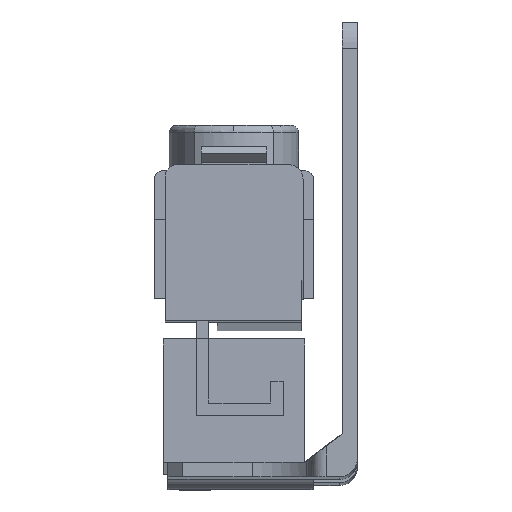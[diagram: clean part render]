
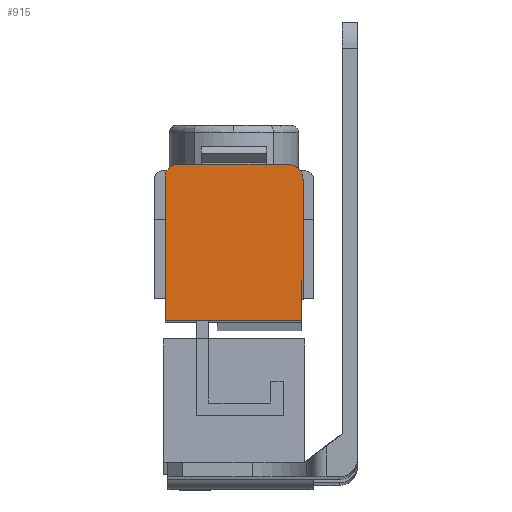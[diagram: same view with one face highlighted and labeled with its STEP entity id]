
A CAD part, front view. The second image highlights one B-rep face of the part: STEP entity #915.
In plain terms, the highlighted planar face has unit normal (0, -1, 0.005).
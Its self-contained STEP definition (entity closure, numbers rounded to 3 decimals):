
#120 = ORIENTED_EDGE ( 'NONE', *, *, #3014, .T. ) ;
#187 = ORIENTED_EDGE ( 'NONE', *, *, #3003, .T. ) ;
#197 = ORIENTED_EDGE ( 'NONE', *, *, #3006, .T. ) ;
#208 = ORIENTED_EDGE ( 'NONE', *, *, #3015, .T. ) ;
#222 = ORIENTED_EDGE ( 'NONE', *, *, #3011, .T. ) ;
#287 = ORIENTED_EDGE ( 'NONE', *, *, #3002, .T. ) ;
#309 = ORIENTED_EDGE ( 'NONE', *, *, #3010, .T. ) ;
#310 = ORIENTED_EDGE ( 'NONE', *, *, #2994, .T. ) ;
#915 = ADVANCED_FACE ( 'NONE', ( #2052 ), #1414, .T. ) ;
#1159 = AXIS2_PLACEMENT_3D ( 'NONE', #1415, #1416, #1417 ) ;
#1388 = AXIS2_PLACEMENT_3D ( 'NONE', #5321, #5322, #5323 ) ;
#1389 = AXIS2_PLACEMENT_3D ( 'NONE', #5346, #5347, #5348 ) ;
#1414 = PLANE ( 'NONE',  #1159 ) ;
#1415 = CARTESIAN_POINT ( 'NONE',  ( -24.75, -22.783, -6.422 ) ) ;
#1416 = DIRECTION ( 'NONE',  ( 0., -1., 0.005 ) ) ;
#1417 = DIRECTION ( 'NONE',  ( 0., -0.005, -1. ) ) ;
#2052 = FACE_OUTER_BOUND ( 'NONE', #4964, .T. ) ;
#2994 = EDGE_CURVE ( 'NONE', #3358, #3281, #4300, .T. ) ;
#3002 = EDGE_CURVE ( 'NONE', #3253, #3358, #4314, .T. ) ;
#3003 = EDGE_CURVE ( 'NONE', #3281, #3334, #4316, .T. ) ;
#3006 = EDGE_CURVE ( 'NONE', #3334, #3254, #4323, .T. ) ;
#3010 = EDGE_CURVE ( 'NONE', #3254, #3306, #4329, .T. ) ;
#3011 = EDGE_CURVE ( 'NONE', #3326, #3253, #4331, .T. ) ;
#3014 = EDGE_CURVE ( 'NONE', #3306, #3340, #4337, .T. ) ;
#3015 = EDGE_CURVE ( 'NONE', #3340, #3326, #4339, .T. ) ;
#3253 = VERTEX_POINT ( 'NONE', #5729 ) ;
#3254 = VERTEX_POINT ( 'NONE', #5730 ) ;
#3281 = VERTEX_POINT ( 'NONE', #5757 ) ;
#3306 = VERTEX_POINT ( 'NONE', #5782 ) ;
#3326 = VERTEX_POINT ( 'NONE', #5802 ) ;
#3334 = VERTEX_POINT ( 'NONE', #5810 ) ;
#3340 = VERTEX_POINT ( 'NONE', #5816 ) ;
#3358 = VERTEX_POINT ( 'NONE', #5834 ) ;
#4300 = CIRCLE ( 'NONE', #1388, 2.05 ) ;
#4314 = LINE ( 'NONE', #5338, #4315 ) ;
#4315 = VECTOR ( 'NONE', #5339, 1000. ) ;
#4316 = LINE ( 'NONE', #5340, #4317 ) ;
#4317 = VECTOR ( 'NONE', #5341, 1000. ) ;
#4323 = CIRCLE ( 'NONE', #1389, 1.75 ) ;
#4329 = LINE ( 'NONE', #5355, #4330 ) ;
#4330 = VECTOR ( 'NONE', #5356, 1000. ) ;
#4331 = LINE ( 'NONE', #5357, #4332 ) ;
#4332 = VECTOR ( 'NONE', #5358, 1000. ) ;
#4337 = LINE ( 'NONE', #5363, #4338 ) ;
#4338 = VECTOR ( 'NONE', #5364, 1000. ) ;
#4339 = LINE ( 'NONE', #5365, #4340 ) ;
#4340 = VECTOR ( 'NONE', #5366, 1000. ) ;
#4964 = EDGE_LOOP ( 'NONE', ( #287, #310, #187, #197, #309, #120, #208, #222 ) ) ;
#5321 = CARTESIAN_POINT ( 'NONE',  ( -9.55, -22.785, -6.722 ) ) ;
#5322 = DIRECTION ( 'NONE',  ( 0., -1., 0.005 ) ) ;
#5323 = DIRECTION ( 'NONE',  ( 0., 0.005, 1. ) ) ;
#5338 = CARTESIAN_POINT ( 'NONE',  ( -7.5, -22.785, -6.722 ) ) ;
#5339 = DIRECTION ( 'NONE',  ( 0., 0.005, 1. ) ) ;
#5340 = CARTESIAN_POINT ( 'NONE',  ( -24.75, -22.774, -4.672 ) ) ;
#5341 = DIRECTION ( 'NONE',  ( -1., 0., 0. ) ) ;
#5346 = CARTESIAN_POINT ( 'NONE',  ( -24.75, -22.783, -6.422 ) ) ;
#5347 = DIRECTION ( 'NONE',  ( 0., -1., 0.005 ) ) ;
#5348 = DIRECTION ( 'NONE',  ( 0., -0.005, -1. ) ) ;
#5355 = CARTESIAN_POINT ( 'NONE',  ( -26.5, -22.783, -6.422 ) ) ;
#5356 = DIRECTION ( 'NONE',  ( 0., -0.005, -1. ) ) ;
#5357 = CARTESIAN_POINT ( 'NONE',  ( -26.5, -22.858, -20.672 ) ) ;
#5358 = DIRECTION ( 'NONE',  ( 1., 0., 0. ) ) ;
#5363 = CARTESIAN_POINT ( 'NONE',  ( -7.75, -22.887, -26.172 ) ) ;
#5364 = DIRECTION ( 'NONE',  ( 1., 0., 0. ) ) ;
#5365 = CARTESIAN_POINT ( 'NONE',  ( -7.75, -22.887, -26.172 ) ) ;
#5366 = DIRECTION ( 'NONE',  ( 0., 0.005, 1. ) ) ;
#5729 = CARTESIAN_POINT ( 'NONE',  ( -7.5, -22.858, -20.672 ) ) ;
#5730 = CARTESIAN_POINT ( 'NONE',  ( -26.5, -22.783, -6.422 ) ) ;
#5757 = CARTESIAN_POINT ( 'NONE',  ( -9.55, -22.774, -4.672 ) ) ;
#5782 = CARTESIAN_POINT ( 'NONE',  ( -26.5, -22.887, -26.172 ) ) ;
#5802 = CARTESIAN_POINT ( 'NONE',  ( -7.75, -22.858, -20.672 ) ) ;
#5810 = CARTESIAN_POINT ( 'NONE',  ( -24.75, -22.774, -4.672 ) ) ;
#5816 = CARTESIAN_POINT ( 'NONE',  ( -7.75, -22.887, -26.172 ) ) ;
#5834 = CARTESIAN_POINT ( 'NONE',  ( -7.5, -22.785, -6.722 ) ) ;
